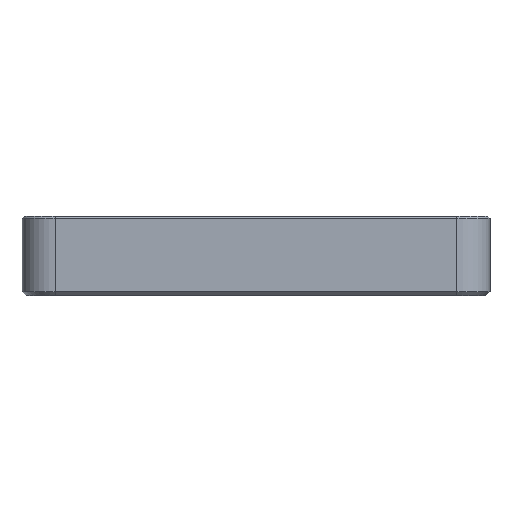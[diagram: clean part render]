
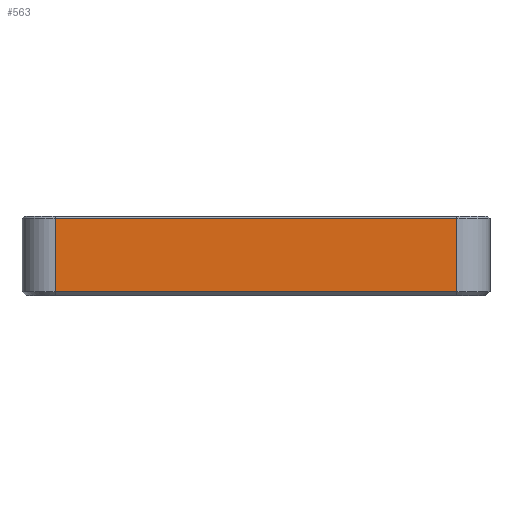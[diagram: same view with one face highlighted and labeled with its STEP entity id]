
A CAD part, left-side view. The second image highlights one B-rep face of the part: STEP entity #563.
In plain terms, the highlighted planar face has unit normal (-1, 0, 0).
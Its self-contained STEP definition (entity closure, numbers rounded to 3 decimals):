
#44 = CYLINDRICAL_SURFACE('',#45,8.05);
#45 = AXIS2_PLACEMENT_3D('',#46,#47,#48);
#46 = CARTESIAN_POINT('',(-83.95,-48.7,0.));
#47 = DIRECTION('',(0.,0.,1.));
#48 = DIRECTION('',(0.,-1.,0.));
#143 = VERTEX_POINT('',#144);
#144 = CARTESIAN_POINT('',(-92.,-48.7,1.));
#171 = EDGE_CURVE('',#143,#172,#174,.T.);
#172 = VERTEX_POINT('',#173);
#173 = CARTESIAN_POINT('',(-92.,-48.7,18.85));
#174 = SURFACE_CURVE('',#175,(#179,#186),.PCURVE_S1.);
#175 = LINE('',#176,#177);
#176 = CARTESIAN_POINT('',(-92.,-48.7,0.));
#177 = VECTOR('',#178,1.);
#178 = DIRECTION('',(0.,0.,1.));
#179 = PCURVE('',#44,#180);
#180 = DEFINITIONAL_REPRESENTATION('',(#181),#185);
#181 = LINE('',#182,#183);
#182 = CARTESIAN_POINT('',(-1.571,0.));
#183 = VECTOR('',#184,1.);
#184 = DIRECTION('',(-0.,1.));
#185 = ( GEOMETRIC_REPRESENTATION_CONTEXT(2) 
PARAMETRIC_REPRESENTATION_CONTEXT() REPRESENTATION_CONTEXT('2D SPACE',''
  ) );
#186 = PCURVE('',#187,#192);
#187 = PLANE('',#188);
#188 = AXIS2_PLACEMENT_3D('',#189,#190,#191);
#189 = CARTESIAN_POINT('',(-92.,56.75,0.));
#190 = DIRECTION('',(1.,0.,-0.));
#191 = DIRECTION('',(0.,-1.,0.));
#192 = DEFINITIONAL_REPRESENTATION('',(#193),#197);
#193 = LINE('',#194,#195);
#194 = CARTESIAN_POINT('',(105.45,0.));
#195 = VECTOR('',#196,1.);
#196 = DIRECTION('',(0.,-1.));
#197 = ( GEOMETRIC_REPRESENTATION_CONTEXT(2) 
PARAMETRIC_REPRESENTATION_CONTEXT() REPRESENTATION_CONTEXT('2D SPACE',''
  ) );
#476 = PLANE('',#477);
#477 = AXIS2_PLACEMENT_3D('',#478,#479,#480);
#478 = CARTESIAN_POINT('',(-91.75,48.7,19.1));
#479 = DIRECTION('',(0.707,0.,-0.707));
#480 = DIRECTION('',(-0.,1.,-0.));
#529 = PLANE('',#530);
#530 = AXIS2_PLACEMENT_3D('',#531,#532,#533);
#531 = CARTESIAN_POINT('',(-91.5,48.7,0.5));
#532 = DIRECTION('',(-0.707,0.,-0.707));
#533 = DIRECTION('',(-0.,1.,0.));
#563 = ADVANCED_FACE('',(#564),#187,.F.);
#564 = FACE_BOUND('',#565,.F.);
#565 = EDGE_LOOP('',(#566,#596,#617,#618));
#566 = ORIENTED_EDGE('',*,*,#567,.T.);
#567 = EDGE_CURVE('',#568,#570,#572,.T.);
#568 = VERTEX_POINT('',#569);
#569 = CARTESIAN_POINT('',(-92.,48.7,1.));
#570 = VERTEX_POINT('',#571);
#571 = CARTESIAN_POINT('',(-92.,48.7,18.85));
#572 = SURFACE_CURVE('',#573,(#577,#584),.PCURVE_S1.);
#573 = LINE('',#574,#575);
#574 = CARTESIAN_POINT('',(-92.,48.7,0.));
#575 = VECTOR('',#576,1.);
#576 = DIRECTION('',(0.,0.,1.));
#577 = PCURVE('',#187,#578);
#578 = DEFINITIONAL_REPRESENTATION('',(#579),#583);
#579 = LINE('',#580,#581);
#580 = CARTESIAN_POINT('',(8.05,0.));
#581 = VECTOR('',#582,1.);
#582 = DIRECTION('',(0.,-1.));
#583 = ( GEOMETRIC_REPRESENTATION_CONTEXT(2) 
PARAMETRIC_REPRESENTATION_CONTEXT() REPRESENTATION_CONTEXT('2D SPACE',''
  ) );
#584 = PCURVE('',#585,#590);
#585 = CYLINDRICAL_SURFACE('',#586,8.05);
#586 = AXIS2_PLACEMENT_3D('',#587,#588,#589);
#587 = CARTESIAN_POINT('',(-83.95,48.7,0.));
#588 = DIRECTION('',(0.,0.,1.));
#589 = DIRECTION('',(-0.,1.,0.));
#590 = DEFINITIONAL_REPRESENTATION('',(#591),#595);
#591 = LINE('',#592,#593);
#592 = CARTESIAN_POINT('',(1.571,0.));
#593 = VECTOR('',#594,1.);
#594 = DIRECTION('',(0.,1.));
#595 = ( GEOMETRIC_REPRESENTATION_CONTEXT(2) 
PARAMETRIC_REPRESENTATION_CONTEXT() REPRESENTATION_CONTEXT('2D SPACE',''
  ) );
#596 = ORIENTED_EDGE('',*,*,#597,.T.);
#597 = EDGE_CURVE('',#570,#172,#598,.T.);
#598 = SURFACE_CURVE('',#599,(#603,#610),.PCURVE_S1.);
#599 = LINE('',#600,#601);
#600 = CARTESIAN_POINT('',(-92.,48.7,18.85));
#601 = VECTOR('',#602,1.);
#602 = DIRECTION('',(0.,-1.,0.));
#603 = PCURVE('',#187,#604);
#604 = DEFINITIONAL_REPRESENTATION('',(#605),#609);
#605 = LINE('',#606,#607);
#606 = CARTESIAN_POINT('',(8.05,-18.85));
#607 = VECTOR('',#608,1.);
#608 = DIRECTION('',(1.,0.));
#609 = ( GEOMETRIC_REPRESENTATION_CONTEXT(2) 
PARAMETRIC_REPRESENTATION_CONTEXT() REPRESENTATION_CONTEXT('2D SPACE',''
  ) );
#610 = PCURVE('',#476,#611);
#611 = DEFINITIONAL_REPRESENTATION('',(#612),#616);
#612 = LINE('',#613,#614);
#613 = CARTESIAN_POINT('',(-0.,-0.354));
#614 = VECTOR('',#615,1.);
#615 = DIRECTION('',(-1.,0.));
#616 = ( GEOMETRIC_REPRESENTATION_CONTEXT(2) 
PARAMETRIC_REPRESENTATION_CONTEXT() REPRESENTATION_CONTEXT('2D SPACE',''
  ) );
#617 = ORIENTED_EDGE('',*,*,#171,.F.);
#618 = ORIENTED_EDGE('',*,*,#619,.F.);
#619 = EDGE_CURVE('',#568,#143,#620,.T.);
#620 = SURFACE_CURVE('',#621,(#625,#632),.PCURVE_S1.);
#621 = LINE('',#622,#623);
#622 = CARTESIAN_POINT('',(-92.,48.7,1.));
#623 = VECTOR('',#624,1.);
#624 = DIRECTION('',(0.,-1.,0.));
#625 = PCURVE('',#187,#626);
#626 = DEFINITIONAL_REPRESENTATION('',(#627),#631);
#627 = LINE('',#628,#629);
#628 = CARTESIAN_POINT('',(8.05,-1.));
#629 = VECTOR('',#630,1.);
#630 = DIRECTION('',(1.,0.));
#631 = ( GEOMETRIC_REPRESENTATION_CONTEXT(2) 
PARAMETRIC_REPRESENTATION_CONTEXT() REPRESENTATION_CONTEXT('2D SPACE',''
  ) );
#632 = PCURVE('',#529,#633);
#633 = DEFINITIONAL_REPRESENTATION('',(#634),#638);
#634 = LINE('',#635,#636);
#635 = CARTESIAN_POINT('',(-0.,-0.707));
#636 = VECTOR('',#637,1.);
#637 = DIRECTION('',(-1.,0.));
#638 = ( GEOMETRIC_REPRESENTATION_CONTEXT(2) 
PARAMETRIC_REPRESENTATION_CONTEXT() REPRESENTATION_CONTEXT('2D SPACE',''
  ) );
